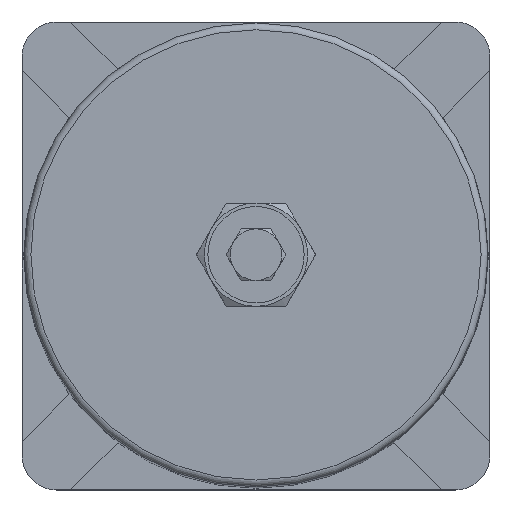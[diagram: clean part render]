
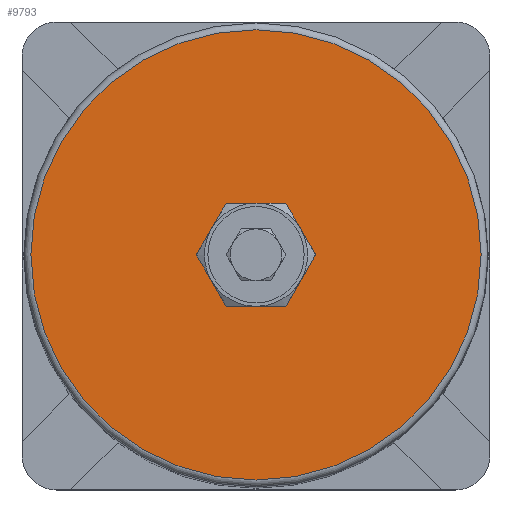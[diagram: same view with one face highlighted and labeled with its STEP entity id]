
A CAD part, top view. The second image highlights one B-rep face of the part: STEP entity #9793.
In plain terms, the highlighted planar face has unit normal (0, 0, 1).
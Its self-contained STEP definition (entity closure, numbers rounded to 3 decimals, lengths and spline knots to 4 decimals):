
#2166=FACE_BOUND('',#2983,.T.);
#2280=FACE_OUTER_BOUND('',#2982,.T.);
#2982=EDGE_LOOP('',(#6343));
#2983=EDGE_LOOP('',(#6344));
#3638=CIRCLE('',#10421,0.6606);
#3667=CIRCLE('',#10525,4.0892);
#3749=VERTEX_POINT('',#11570);
#3863=VERTEX_POINT('',#12040);
#4545=EDGE_CURVE('',#3749,#3749,#3638,.T.);
#4730=EDGE_CURVE('',#3863,#3863,#3667,.T.);
#6343=ORIENTED_EDGE('',*,*,#4730,.F.);
#6344=ORIENTED_EDGE('',*,*,#4545,.T.);
#8943=PLANE('',#10528);
#9793=ADVANCED_FACE('',(#2280,#2166),#8943,.T.);
#10421=AXIS2_PLACEMENT_3D('',#11571,#10725,#10726);
#10525=AXIS2_PLACEMENT_3D('',#12041,#11041,#11042);
#10528=AXIS2_PLACEMENT_3D('',#12045,#11047,#11048);
#10725=DIRECTION('center_axis',(0.,0.,
-1.));
#10726=DIRECTION('ref_axis',(0.,1.,0.));
#11041=DIRECTION('center_axis',(0.,0.,
-1.));
#11042=DIRECTION('ref_axis',(-1.,0.,0.));
#11047=DIRECTION('center_axis',(0.,0.,
1.));
#11048=DIRECTION('ref_axis',(1.,0.,0.));
#11570=CARTESIAN_POINT('',(0.,0.6606,11.75));
#11571=CARTESIAN_POINT('Origin',(0.,0.,
11.75));
#12040=CARTESIAN_POINT('',(4.0892,0.,11.75));
#12041=CARTESIAN_POINT('Origin',(0.,0.,
11.75));
#12045=CARTESIAN_POINT('Origin',(2.3867,0.,11.75));
